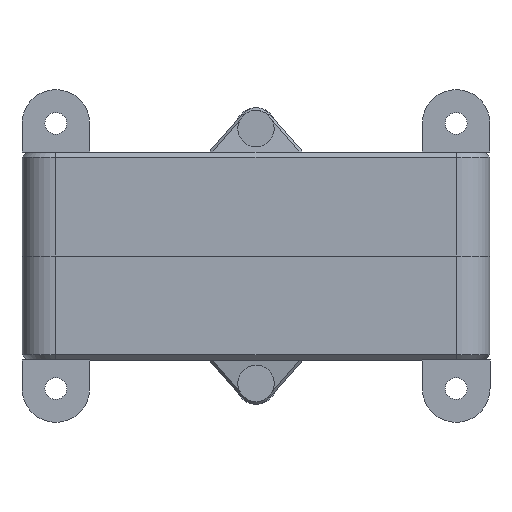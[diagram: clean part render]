
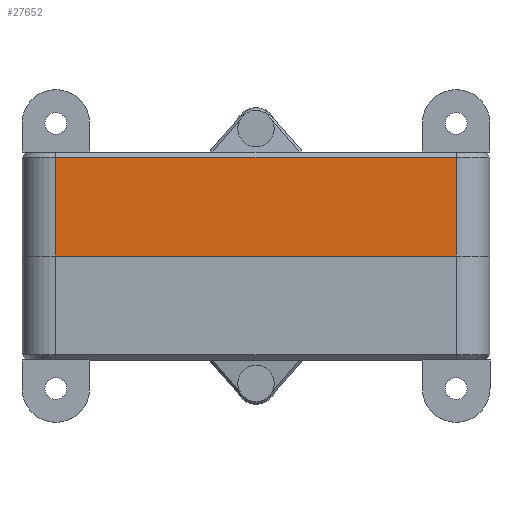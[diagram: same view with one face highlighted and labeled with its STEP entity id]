
A CAD part, front view. The second image highlights one B-rep face of the part: STEP entity #27652.
In plain terms, the highlighted planar face has unit normal (0, -1, 0).
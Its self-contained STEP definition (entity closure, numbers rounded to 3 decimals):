
#474=PLANE('',#29545);
#2262=LINE('',#37410,#5257);
#2302=LINE('',#37517,#5297);
#2453=LINE('',#38062,#5448);
#2454=LINE('',#38064,#5449);
#5257=VECTOR('',#31153,10.);
#5297=VECTOR('',#31233,10.);
#5448=VECTOR('',#31474,10.);
#5449=VECTOR('',#31477,10.);
#8422=FACE_OUTER_BOUND('',#9982,.T.);
#9982=EDGE_LOOP('',(#19353,#19354,#19355,#19356));
#12014=VERTEX_POINT('',#37407);
#12015=VERTEX_POINT('',#37409);
#12060=VERTEX_POINT('',#37509);
#12062=VERTEX_POINT('',#37515);
#14786=EDGE_CURVE('',#12014,#12015,#2262,.T.);
#14840=EDGE_CURVE('',#12062,#12060,#2302,.T.);
#15030=EDGE_CURVE('',#12015,#12062,#2453,.T.);
#15031=EDGE_CURVE('',#12060,#12014,#2454,.T.);
#19353=ORIENTED_EDGE('',*,*,#14840,.F.);
#19354=ORIENTED_EDGE('',*,*,#15030,.F.);
#19355=ORIENTED_EDGE('',*,*,#14786,.F.);
#19356=ORIENTED_EDGE('',*,*,#15031,.F.);
#27652=ADVANCED_FACE('',(#8422),#474,.T.);
#29545=AXIS2_PLACEMENT_3D('',#38063,#31475,#31476);
#31153=DIRECTION('',(1.,0.,0.));
#31233=DIRECTION('',(-1.,0.,0.));
#31474=DIRECTION('',(0.,0.,-1.));
#31475=DIRECTION('center_axis',(0.,-1.,0.));
#31476=DIRECTION('ref_axis',(1.,0.,0.));
#31477=DIRECTION('',(0.,0.,1.));
#37407=CARTESIAN_POINT('',(-38.5,0.,20.));
#37409=CARTESIAN_POINT('',(38.5,0.,20.));
#37410=CARTESIAN_POINT('',(-45.,0.,20.));
#37509=CARTESIAN_POINT('',(-38.5,0.,1.));
#37515=CARTESIAN_POINT('',(38.5,0.,1.));
#37517=CARTESIAN_POINT('',(-22.5,0.,1.));
#38062=CARTESIAN_POINT('',(38.5,0.,0.));
#38063=CARTESIAN_POINT('Origin',(-45.,0.,
0.));
#38064=CARTESIAN_POINT('',(-38.5,0.,0.));
